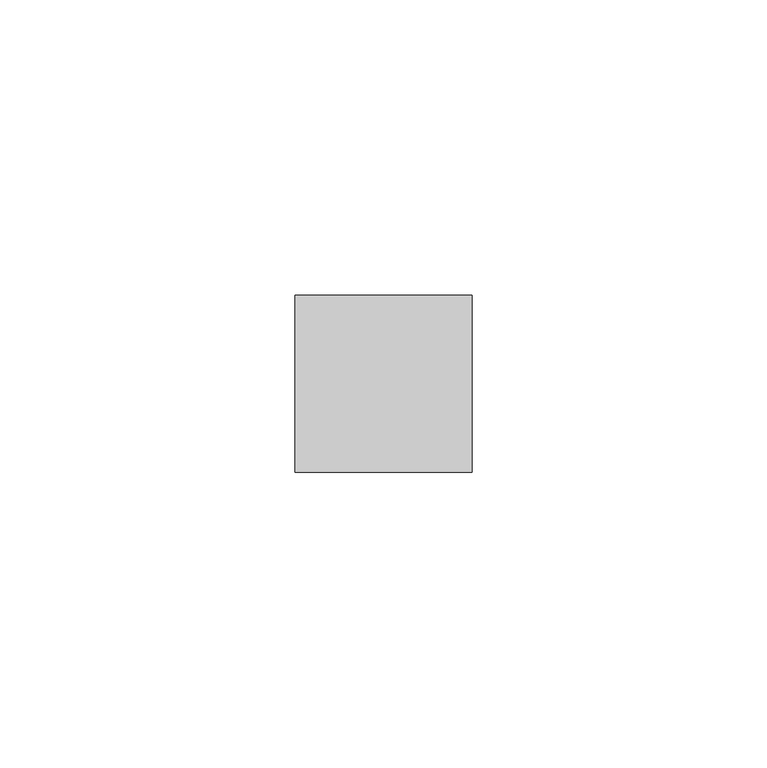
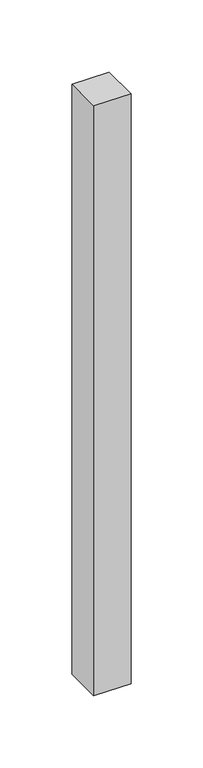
"""IFC4 building model written with IfcOpenShell, lengths in millimetres: member geometry, 矩形竖梃 : 30mm 正方形."""

from ifc_helpers import new_model, si_unit, frame, origin, place, context, project, spatial, polyline, outline, extrude, source, transform, mapped, element, save


def member_d9064eb3(model_context):
    return source(origin(), model_context, "Body", "SweptSolid", [
        extrude(outline(polyline([(15.0, 15.0), (15.0, -15.0), (-15.0, -15.0), (-15.0, 15.0), (15.0, 15.0)])), frame((0.0, 0.0, -500.0), z_axis=(0.0, 0.0, 1.0), x_axis=(1.0, 0.0, 0.0)), (0.0, 0.0, 1.0), 500.0),
    ])


if __name__ == "__main__":
    model = new_model("IFC4")
    model_context = context("Model", 3, world=origin())
    ifc_project = project(units=[si_unit("LENGTHUNIT", "METRE", prefix="MILLI")], contexts=[model_context])
    site = spatial("IfcSite", under=ifc_project)
    building = spatial("IfcBuilding", under=site)
    placement = place(None, origin())
    member_shape = member_d9064eb3(model_context)
    element("IfcMember", 1, ObjectType="矩形竖梃 : 30mm 正方形", at=placement, inside=building, context=model_context, shape_type="MappedRepresentation", body=[
        mapped(member_shape, transform((0.0, 0.0, 0.0), x_axis=(1.0, 0.0, 0.0), y_axis=(0.0, 1.0, 0.0), z_axis=(0.0, 0.0, 1.0))),
    ])
    save(model, "model.ifc")
